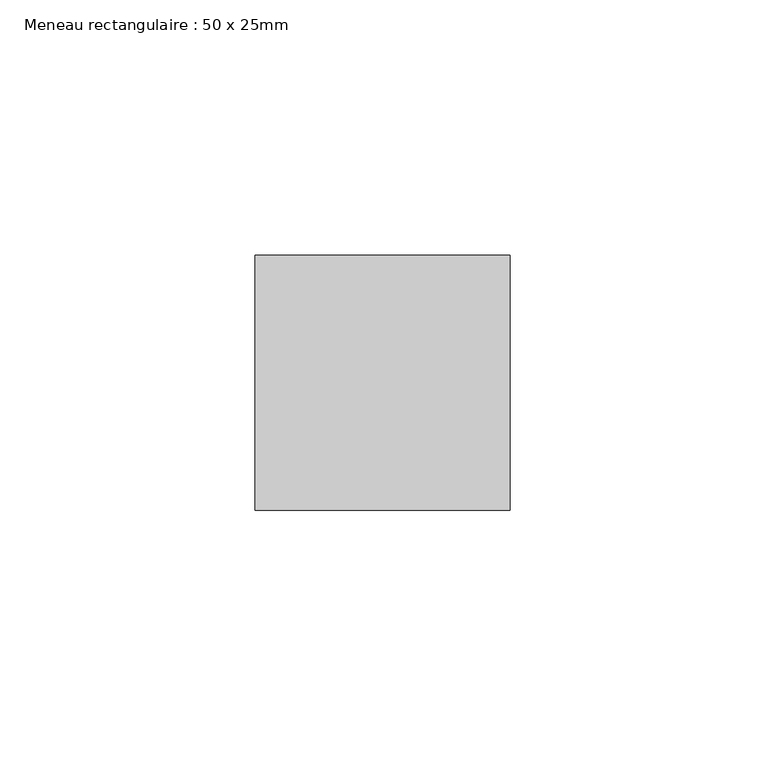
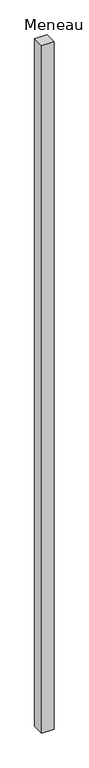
"""IFC4 building model written with IfcOpenShell, lengths in millimetres: member geometry, Meneau rectangulaire : 50 x 25mm."""

from ifc_helpers import new_model, si_unit, frame, origin, place, context, project, spatial, polyline, outline, extrude, source, transform, mapped, element, save


def meneau_rectangulaire_50_x_25mm_7f5d2079(model_context):
    return source(origin(), model_context, "Body", "SweptSolid", [
        extrude(outline(polyline([(25.0, 0.0), (25.0, -50.0), (-25.0, -50.0), (-25.0, 0.0), (25.0, 0.0)])), frame((0.0, 0.0, -2981.0), z_axis=(0.0, 0.0, 1.0), x_axis=(1.0, 0.0, 0.0)), (0.0, 0.0, 1.0), 2981.0),
    ])


if __name__ == "__main__":
    model = new_model("IFC4")
    model_context = context("Model", 3, world=origin())
    ifc_project = project(units=[si_unit("LENGTHUNIT", "METRE", prefix="MILLI")], contexts=[model_context])
    site = spatial("IfcSite", under=ifc_project)
    building = spatial("IfcBuilding", under=site)
    placement = place(None, origin())
    meneau_rectangulaire_50_x_25mm_shape = meneau_rectangulaire_50_x_25mm_7f5d2079(model_context)
    element("IfcMember", 1, ObjectType="Meneau rectangulaire : 50 x 25mm", at=placement, inside=building, context=model_context, shape_type="MappedRepresentation", body=[
        mapped(meneau_rectangulaire_50_x_25mm_shape, transform((0.0, 0.0, 0.0), x_axis=(1.0, 0.0, 0.0), y_axis=(0.0, 1.0, 0.0), z_axis=(0.0, 0.0, 1.0))),
    ])
    save(model, "model.ifc")
